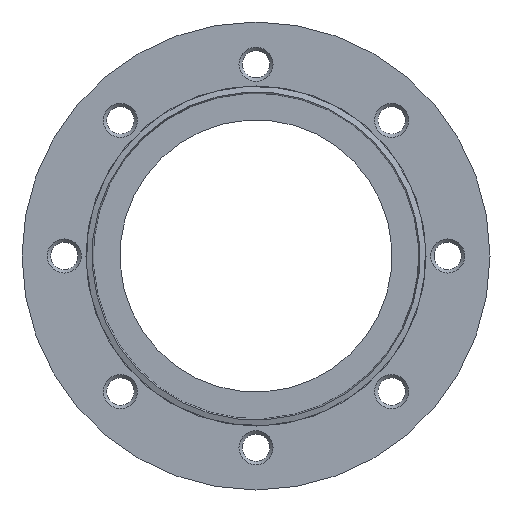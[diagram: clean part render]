
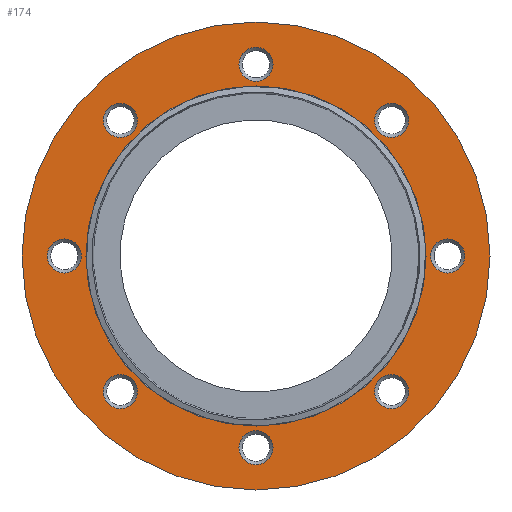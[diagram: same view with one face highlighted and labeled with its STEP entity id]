
A CAD part, left-side view. The second image highlights one B-rep face of the part: STEP entity #174.
In plain terms, the highlighted planar face has unit normal (-1, 0, 0).
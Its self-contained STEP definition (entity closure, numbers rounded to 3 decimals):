
#174 = ADVANCED_FACE( '', ( #364, #365, #366, #367, #368, #369, #370, #371, #372, #373 ), #374, .T. );
#364 = FACE_BOUND( '', #546, .T. );
#365 = FACE_BOUND( '', #547, .T. );
#366 = FACE_BOUND( '', #548, .T. );
#367 = FACE_BOUND( '', #549, .T. );
#368 = FACE_BOUND( '', #550, .T. );
#369 = FACE_BOUND( '', #551, .T. );
#370 = FACE_BOUND( '', #552, .T. );
#371 = FACE_BOUND( '', #553, .T. );
#372 = FACE_BOUND( '', #554, .T. );
#373 = FACE_OUTER_BOUND( '', #555, .T. );
#374 = PLANE( '', #556 );
#546 = EDGE_LOOP( '', ( #786 ) );
#547 = EDGE_LOOP( '', ( #787 ) );
#548 = EDGE_LOOP( '', ( #788 ) );
#549 = EDGE_LOOP( '', ( #789 ) );
#550 = EDGE_LOOP( '', ( #790 ) );
#551 = EDGE_LOOP( '', ( #791 ) );
#552 = EDGE_LOOP( '', ( #792 ) );
#553 = EDGE_LOOP( '', ( #793 ) );
#554 = EDGE_LOOP( '', ( #794 ) );
#555 = EDGE_LOOP( '', ( #795 ) );
#556 = AXIS2_PLACEMENT_3D( '', #796, #797, #798 );
#786 = ORIENTED_EDGE( '', *, *, #849, .T. );
#787 = ORIENTED_EDGE( '', *, *, #861, .T. );
#788 = ORIENTED_EDGE( '', *, *, #834, .T. );
#789 = ORIENTED_EDGE( '', *, *, #893, .T. );
#790 = ORIENTED_EDGE( '', *, *, #836, .T. );
#791 = ORIENTED_EDGE( '', *, *, #869, .T. );
#792 = ORIENTED_EDGE( '', *, *, #820, .T. );
#793 = ORIENTED_EDGE( '', *, *, #863, .T. );
#794 = ORIENTED_EDGE( '', *, *, #872, .T. );
#795 = ORIENTED_EDGE( '', *, *, #855, .T. );
#796 = CARTESIAN_POINT( '', ( -1.3, 0., 41. ) );
#797 = DIRECTION( '', ( -1., 0., 0. ) );
#798 = DIRECTION( '', ( 0., 0., 1. ) );
#820 = EDGE_CURVE( '', #909, #909, #910, .F. );
#834 = EDGE_CURVE( '', #932, #932, #933, .F. );
#836 = EDGE_CURVE( '', #935, #935, #936, .F. );
#849 = EDGE_CURVE( '', #956, #956, #957, .T. );
#855 = EDGE_CURVE( '', #966, #966, #967, .T. );
#861 = EDGE_CURVE( '', #975, #975, #976, .F. );
#863 = EDGE_CURVE( '', #978, #978, #979, .F. );
#869 = EDGE_CURVE( '', #988, #988, #989, .F. );
#872 = EDGE_CURVE( '', #993, #993, #994, .F. );
#893 = EDGE_CURVE( '', #1022, #1022, #1023, .F. );
#909 = VERTEX_POINT( '', #1039 );
#910 = CIRCLE( '', #1040, 4.124 );
#932 = VERTEX_POINT( '', #1062 );
#933 = CIRCLE( '', #1063, 4.124 );
#935 = VERTEX_POINT( '', #1065 );
#936 = CIRCLE( '', #1066, 4.124 );
#956 = VERTEX_POINT( '', #1086 );
#957 = CIRCLE( '', #1087, 41.25 );
#966 = VERTEX_POINT( '', #1096 );
#967 = CIRCLE( '', #1097, 56.75 );
#975 = VERTEX_POINT( '', #1105 );
#976 = CIRCLE( '', #1106, 4.124 );
#978 = VERTEX_POINT( '', #1108 );
#979 = CIRCLE( '', #1109, 4.124 );
#988 = VERTEX_POINT( '', #1118 );
#989 = CIRCLE( '', #1119, 4.124 );
#993 = VERTEX_POINT( '', #1123 );
#994 = CIRCLE( '', #1124, 4.124 );
#1022 = VERTEX_POINT( '', #1152 );
#1023 = CIRCLE( '', #1153, 4.124 );
#1039 = CARTESIAN_POINT( '', ( -1.3, -4.124, 46.5 ) );
#1040 = AXIS2_PLACEMENT_3D( '', #1171, #1172, #1173 );
#1062 = CARTESIAN_POINT( '', ( -1.3, 4.123, -46.5 ) );
#1063 = AXIS2_PLACEMENT_3D( '', #1198, #1199, #1200 );
#1065 = CARTESIAN_POINT( '', ( -1.3, -46.5, -4.124 ) );
#1066 = AXIS2_PLACEMENT_3D( '', #1201, #1202, #1203 );
#1086 = CARTESIAN_POINT( '', ( -1.3, 0., 41.25 ) );
#1087 = AXIS2_PLACEMENT_3D( '', #1225, #1226, #1227 );
#1096 = CARTESIAN_POINT( '', ( -1.3, 0., 56.75 ) );
#1097 = AXIS2_PLACEMENT_3D( '', #1237, #1238, #1239 );
#1105 = CARTESIAN_POINT( '', ( -1.3, 35.796, -29.965 ) );
#1106 = AXIS2_PLACEMENT_3D( '', #1246, #1247, #1248 );
#1108 = CARTESIAN_POINT( '', ( -1.3, 29.965, 35.796 ) );
#1109 = AXIS2_PLACEMENT_3D( '', #1249, #1250, #1251 );
#1118 = CARTESIAN_POINT( '', ( -1.3, -35.796, 29.965 ) );
#1119 = AXIS2_PLACEMENT_3D( '', #1261, #1262, #1263 );
#1123 = CARTESIAN_POINT( '', ( -1.3, 46.5, 4.123 ) );
#1124 = AXIS2_PLACEMENT_3D( '', #1267, #1268, #1269 );
#1152 = CARTESIAN_POINT( '', ( -1.3, -29.965, -35.796 ) );
#1153 = AXIS2_PLACEMENT_3D( '', #1291, #1292, #1293 );
#1171 = CARTESIAN_POINT( '', ( -1.3, 0., 46.5 ) );
#1172 = DIRECTION( '', ( -1., 0., 0. ) );
#1173 = DIRECTION( '', ( 0., -1., 0. ) );
#1198 = CARTESIAN_POINT( '', ( -1.3, 0., -46.5 ) );
#1199 = DIRECTION( '', ( -1., 0., 0. ) );
#1200 = DIRECTION( '', ( 0., 1., 0. ) );
#1201 = CARTESIAN_POINT( '', ( -1.3, -46.5, 0. ) );
#1202 = DIRECTION( '', ( -1., 0., 0. ) );
#1203 = DIRECTION( '', ( 0., 0., -1. ) );
#1225 = CARTESIAN_POINT( '', ( -1.3, 0., 0. ) );
#1226 = DIRECTION( '', ( 1., 0., 0. ) );
#1227 = DIRECTION( '', ( 0., 0., 1. ) );
#1237 = CARTESIAN_POINT( '', ( -1.3, 0., 0. ) );
#1238 = DIRECTION( '', ( -1., 0., 0. ) );
#1239 = DIRECTION( '', ( 0., 0., 1. ) );
#1246 = CARTESIAN_POINT( '', ( -1.3, 32.88, -32.88 ) );
#1247 = DIRECTION( '', ( -1., 0., 0. ) );
#1248 = DIRECTION( '', ( 0., 0.707, 0.707 ) );
#1249 = CARTESIAN_POINT( '', ( -1.3, 32.88, 32.88 ) );
#1250 = DIRECTION( '', ( -1., 0., 0. ) );
#1251 = DIRECTION( '', ( 0., -0.707, 0.707 ) );
#1261 = CARTESIAN_POINT( '', ( -1.3, -32.88, 32.88 ) );
#1262 = DIRECTION( '', ( -1., 0., 0. ) );
#1263 = DIRECTION( '', ( 0., -0.707, -0.707 ) );
#1267 = CARTESIAN_POINT( '', ( -1.3, 46.5, 0. ) );
#1268 = DIRECTION( '', ( -1., 0., 0. ) );
#1269 = DIRECTION( '', ( 0., 0., 1. ) );
#1291 = CARTESIAN_POINT( '', ( -1.3, -32.88, -32.88 ) );
#1292 = DIRECTION( '', ( -1., 0., 0. ) );
#1293 = DIRECTION( '', ( 0., 0.707, -0.707 ) );
